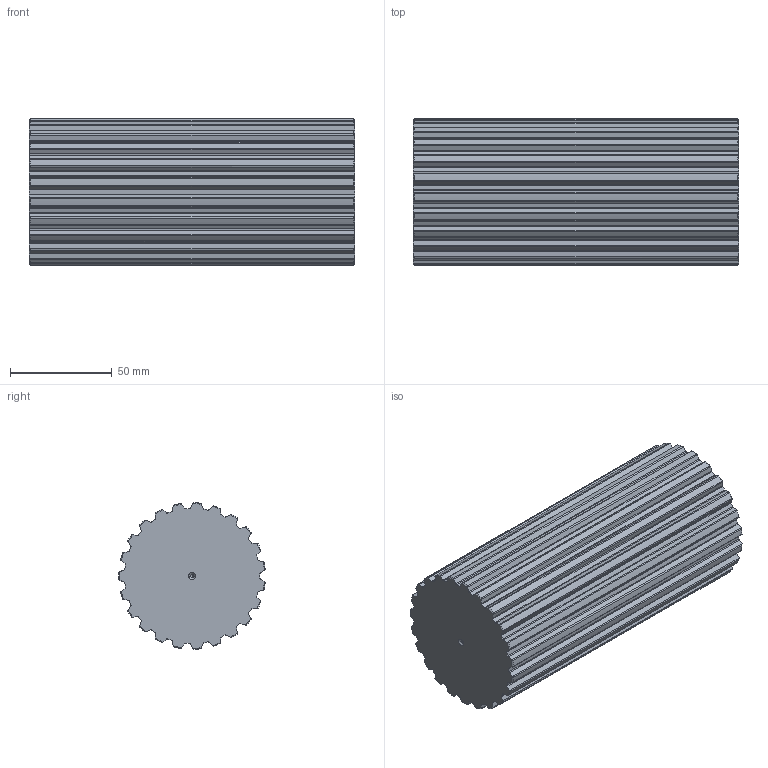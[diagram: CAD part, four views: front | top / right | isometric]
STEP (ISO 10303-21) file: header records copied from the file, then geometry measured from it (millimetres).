
FILE_DESCRIPTION(('STEP AP203'),'1');
FILE_NAME('bart_23.stp','2022-04-21T08:09:20',('TraceParts'),('TraceParts S.A.'),'Spatial InterOp 3D',' ',' ');
FILE_SCHEMA(('CONFIG_CONTROL_DESIGN'));
Length unit declared in the file: millimetre
Products named in the file (1): 1
Bounding box: 160 x 72.05 x 72.19 mm (x, y, z)
Volume: 609990.8 mm3; surface area: 53626.1 mm2
Topology: 1 solids, 1 shells, 246 faces, 724 edges, 478 vertices
Faces by surface type: cylinder 142, cone 56, plane 48
Entity records: 8634 total; most frequent: CARTESIAN_POINT 2273, ORIENTED_EDGE 1440, DIRECTION 1276, EDGE_CURVE 720, AXIS2_PLACEMENT_3D 493, VERTEX_POINT 478, LINE 290, VECTOR 290
